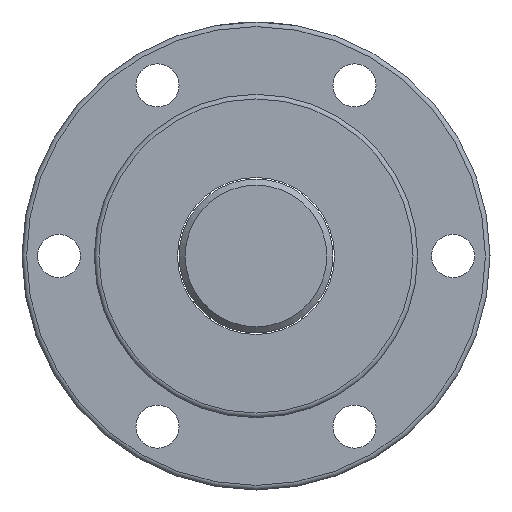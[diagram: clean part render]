
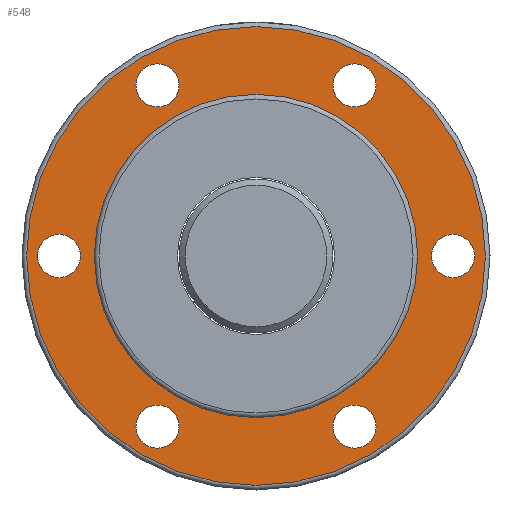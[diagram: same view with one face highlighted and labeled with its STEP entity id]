
A CAD part, left-side view. The second image highlights one B-rep face of the part: STEP entity #548.
In plain terms, the highlighted planar face has unit normal (-1, 0, 0).
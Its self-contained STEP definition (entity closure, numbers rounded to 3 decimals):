
#67=PLANE('',#650);
#141=ORIENTED_EDGE('',*,*,#220,.T.);
#142=ORIENTED_EDGE('',*,*,#224,.F.);
#143=ORIENTED_EDGE('',*,*,#218,.T.);
#144=ORIENTED_EDGE('',*,*,#214,.T.);
#145=ORIENTED_EDGE('',*,*,#210,.T.);
#146=ORIENTED_EDGE('',*,*,#206,.T.);
#147=ORIENTED_EDGE('',*,*,#202,.T.);
#148=ORIENTED_EDGE('',*,*,#198,.T.);
#198=EDGE_CURVE('',#251,#251,#295,.T.);
#202=EDGE_CURVE('',#255,#255,#299,.T.);
#206=EDGE_CURVE('',#259,#259,#303,.T.);
#210=EDGE_CURVE('',#263,#263,#307,.T.);
#214=EDGE_CURVE('',#267,#267,#311,.T.);
#218=EDGE_CURVE('',#271,#271,#315,.T.);
#220=EDGE_CURVE('',#273,#273,#317,.T.);
#224=EDGE_CURVE('',#277,#277,#321,.T.);
#251=VERTEX_POINT('',#892);
#255=VERTEX_POINT('',#903);
#259=VERTEX_POINT('',#914);
#263=VERTEX_POINT('',#925);
#267=VERTEX_POINT('',#936);
#271=VERTEX_POINT('',#947);
#273=VERTEX_POINT('',#952);
#277=VERTEX_POINT('',#964);
#295=CIRCLE('',#603,7.);
#299=CIRCLE('',#610,7.);
#303=CIRCLE('',#617,7.);
#307=CIRCLE('',#624,7.);
#311=CIRCLE('',#631,7.);
#315=CIRCLE('',#638,7.);
#317=CIRCLE('',#641,52.5);
#321=CIRCLE('',#649,74.5);
#386=EDGE_LOOP('',(#141));
#387=EDGE_LOOP('',(#142));
#388=EDGE_LOOP('',(#143));
#389=EDGE_LOOP('',(#144));
#390=EDGE_LOOP('',(#145));
#391=EDGE_LOOP('',(#146));
#392=EDGE_LOOP('',(#147));
#393=EDGE_LOOP('',(#148));
#473=FACE_BOUND('',#386,.T.);
#474=FACE_BOUND('',#387,.T.);
#475=FACE_BOUND('',#388,.T.);
#476=FACE_BOUND('',#389,.T.);
#477=FACE_BOUND('',#390,.T.);
#478=FACE_BOUND('',#391,.T.);
#479=FACE_BOUND('',#392,.T.);
#480=FACE_BOUND('',#393,.T.);
#548=ADVANCED_FACE('',(#473,#474,#475,#476,#477,#478,#479,#480),#67,.F.);
#603=AXIS2_PLACEMENT_3D('',#891,#702,#703);
#610=AXIS2_PLACEMENT_3D('',#902,#716,#717);
#617=AXIS2_PLACEMENT_3D('',#913,#730,#731);
#624=AXIS2_PLACEMENT_3D('',#924,#744,#745);
#631=AXIS2_PLACEMENT_3D('',#935,#758,#759);
#638=AXIS2_PLACEMENT_3D('',#946,#772,#773);
#641=AXIS2_PLACEMENT_3D('',#951,#778,#779);
#649=AXIS2_PLACEMENT_3D('',#963,#794,#795);
#650=AXIS2_PLACEMENT_3D('',#965,#796,#797);
#702=DIRECTION('',(1.,0.,0.));
#703=DIRECTION('',(0.,1.,0.));
#716=DIRECTION('',(1.,0.,0.));
#717=DIRECTION('',(0.,1.,0.));
#730=DIRECTION('',(1.,0.,0.));
#731=DIRECTION('',(0.,1.,0.));
#744=DIRECTION('',(1.,0.,0.));
#745=DIRECTION('',(0.,1.,0.));
#758=DIRECTION('',(1.,0.,0.));
#759=DIRECTION('',(0.,1.,0.));
#772=DIRECTION('',(1.,0.,0.));
#773=DIRECTION('',(0.,1.,0.));
#778=DIRECTION('',(1.,0.,0.));
#779=DIRECTION('',(0.,1.,0.));
#794=DIRECTION('',(1.,0.,0.));
#795=DIRECTION('',(0.,1.,0.));
#796=DIRECTION('',(1.,0.,0.));
#797=DIRECTION('',(0.,1.,0.));
#891=CARTESIAN_POINT('',(-47.5,64.,0.));
#892=CARTESIAN_POINT('',(-47.5,71.,0.));
#902=CARTESIAN_POINT('',(-47.5,-64.,0.));
#903=CARTESIAN_POINT('',(-47.5,-57.,0.));
#913=CARTESIAN_POINT('',(-47.5,32.,-55.426));
#914=CARTESIAN_POINT('',(-47.5,39.,-55.426));
#924=CARTESIAN_POINT('',(-47.5,-32.,-55.426));
#925=CARTESIAN_POINT('',(-47.5,-25.,-55.426));
#935=CARTESIAN_POINT('',(-47.5,-32.,55.426));
#936=CARTESIAN_POINT('',(-47.5,-25.,55.426));
#946=CARTESIAN_POINT('',(-47.5,32.,55.426));
#947=CARTESIAN_POINT('',(-47.5,39.,55.426));
#951=CARTESIAN_POINT('',(-47.5,0.,0.));
#952=CARTESIAN_POINT('',(-47.5,52.5,0.));
#963=CARTESIAN_POINT('',(-47.5,0.,0.));
#964=CARTESIAN_POINT('',(-47.5,74.5,0.));
#965=CARTESIAN_POINT('',(-47.5,63.5,0.));
